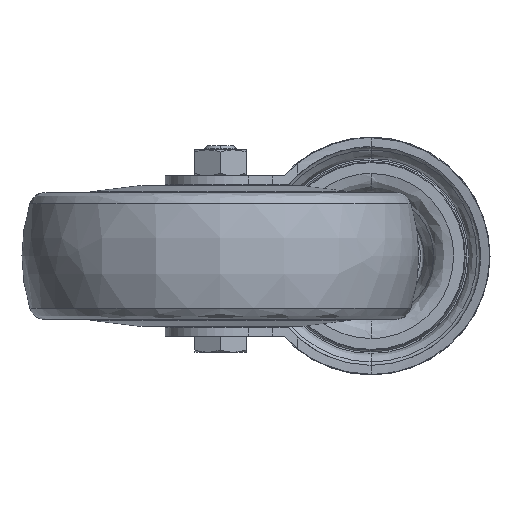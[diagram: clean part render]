
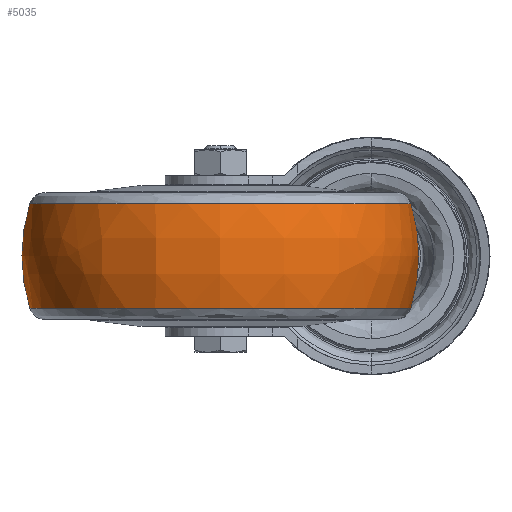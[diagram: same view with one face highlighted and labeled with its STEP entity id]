
A CAD part, front view. The second image highlights one B-rep face of the part: STEP entity #5035.
In plain terms, the highlighted free-form (B-spline) face has degree [3, 3] with [4, 4] control points.
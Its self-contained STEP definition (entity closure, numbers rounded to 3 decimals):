
#410 = CARTESIAN_POINT ( 'NONE',  ( -86.029, -85., -13.171 ) ) ;
#816 = CARTESIAN_POINT ( 'NONE',  ( 10.029, -181.059, -13.171 ) ) ;
#992 = CIRCLE ( 'NONE', #2624, 45. ) ;
#1196 = CARTESIAN_POINT ( 'NONE',  ( 12.677, -186.353, -4.522 ) ) ;
#1313 = EDGE_LOOP ( 'NONE', ( #10045, #7798, #5118, #4561 ) ) ;
#1622 = EDGE_CURVE ( 'NONE', #9898, #5864, #2046, .T. ) ;
#1708 = DIRECTION ( 'NONE',  ( 0., -1., 0. ) ) ;
#1752 = DIRECTION ( 'NONE',  ( 1., 0., 0. ) ) ;
#1961 = CARTESIAN_POINT ( 'NONE',  ( -86.029, -181.059, 13.171 ) ) ;
#2046 = CIRCLE ( 'NONE', #7321, 45. ) ;
#2624 = AXIS2_PLACEMENT_3D ( 'NONE', #4116, #1708, #9551 ) ;
#2710 = CARTESIAN_POINT ( 'NONE',  ( -33., -85., 0. ) ) ;
#2732 = CARTESIAN_POINT ( 'NONE',  ( 12.677, -85., 4.522 ) ) ;
#3019 = CARTESIAN_POINT ( 'NONE',  ( 12.677, -85., -4.522 ) ) ;
#3135 = AXIS2_PLACEMENT_3D ( 'NONE', #3838, #6375, #8598 ) ;
#3329 = CARTESIAN_POINT ( 'NONE',  ( 10.029, -85., 13.171 ) ) ;
#3384 = DIRECTION ( 'NONE',  ( 0., 0., 1. ) ) ;
#3518 = EDGE_CURVE ( 'NONE', #6753, #9271, #992, .T. ) ;
#3838 = CARTESIAN_POINT ( 'NONE',  ( -38., -85., 13.171 ) ) ;
#3902 = CARTESIAN_POINT ( 'NONE',  ( -86.029, -181.059, -13.171 ) ) ;
#4116 = CARTESIAN_POINT ( 'NONE',  ( -43., -85., 0. ) ) ;
#4134 = EDGE_CURVE ( 'NONE', #9898, #6753, #4273, .T. ) ;
#4223 = CIRCLE ( 'NONE', #6692, 48.029 ) ;
#4273 = CIRCLE ( 'NONE', #3135, 48.029 ) ;
#4327 = CARTESIAN_POINT ( 'NONE',  ( 12.677, -186.353, 4.522 ) ) ;
#4374 = CARTESIAN_POINT ( 'NONE',  ( -88.677, -85., -4.522 ) ) ;
#4561 = ORIENTED_EDGE ( 'NONE', *, *, #1622, .F. ) ;
#5035 = ADVANCED_FACE ( 'NONE', ( #7529 ), #7462, .T. ) ;
#5118 = ORIENTED_EDGE ( 'NONE', *, *, #9568, .T. ) ;
#5853 = DIRECTION ( 'NONE',  ( 0., 1., 0. ) ) ;
#5864 = VERTEX_POINT ( 'NONE', #7075 ) ;
#5878 = CARTESIAN_POINT ( 'NONE',  ( -88.677, -186.353, -4.522 ) ) ;
#5976 = CARTESIAN_POINT ( 'NONE',  ( -86.029, -85., 13.171 ) ) ;
#6375 = DIRECTION ( 'NONE',  ( 0., 0., -1. ) ) ;
#6384 = CARTESIAN_POINT ( 'NONE',  ( 10.029, -85., -13.171 ) ) ;
#6692 = AXIS2_PLACEMENT_3D ( 'NONE', #8824, #3384, #1752 ) ;
#6753 = VERTEX_POINT ( 'NONE', #9919 ) ;
#7075 = CARTESIAN_POINT ( 'NONE',  ( 10.029, -85., -13.171 ) ) ;
#7321 = AXIS2_PLACEMENT_3D ( 'NONE', #2710, #5853, #8331 ) ;
#7462 =( BOUNDED_SURFACE ( )  B_SPLINE_SURFACE ( 3, 3, ( 
 ( #5976, #1961, #9088, #8988 ),
 ( #8211, #8260, #4327, #2732 ),
 ( #4374, #5878, #1196, #3019 ),
 ( #9381, #3902, #816, #6384 ) ),
 .UNSPECIFIED., .F., .F., .F. ) 
 B_SPLINE_SURFACE_WITH_KNOTS ( ( 4, 4 ),
 ( 4, 4 ),
 ( 0., 1. ),
 ( 0., 1. ),
 .UNSPECIFIED. ) 
 GEOMETRIC_REPRESENTATION_ITEM ( )  RATIONAL_B_SPLINE_SURFACE ( (
 ( 1., 0.333, 0.333, 1.),
 ( 0.971, 0.324, 0.324, 0.971),
 ( 0.971, 0.324, 0.324, 0.971),
 ( 1., 0.333, 0.333, 1.) ) ) 
 REPRESENTATION_ITEM ( '' )  SURFACE ( )  );
#7529 = FACE_OUTER_BOUND ( 'NONE', #1313, .T. ) ;
#7798 = ORIENTED_EDGE ( 'NONE', *, *, #3518, .T. ) ;
#8211 = CARTESIAN_POINT ( 'NONE',  ( -88.677, -85., 4.522 ) ) ;
#8260 = CARTESIAN_POINT ( 'NONE',  ( -88.677, -186.353, 4.522 ) ) ;
#8331 = DIRECTION ( 'NONE',  ( 1., 0., 0. ) ) ;
#8598 = DIRECTION ( 'NONE',  ( 1., 0., 0. ) ) ;
#8824 = CARTESIAN_POINT ( 'NONE',  ( -38., -85., -13.171 ) ) ;
#8988 = CARTESIAN_POINT ( 'NONE',  ( 10.029, -85., 13.171 ) ) ;
#9088 = CARTESIAN_POINT ( 'NONE',  ( 10.029, -181.059, 13.171 ) ) ;
#9271 = VERTEX_POINT ( 'NONE', #410 ) ;
#9381 = CARTESIAN_POINT ( 'NONE',  ( -86.029, -85., -13.171 ) ) ;
#9551 = DIRECTION ( 'NONE',  ( -1., 0., 0. ) ) ;
#9568 = EDGE_CURVE ( 'NONE', #9271, #5864, #4223, .T. ) ;
#9898 = VERTEX_POINT ( 'NONE', #3329 ) ;
#9919 = CARTESIAN_POINT ( 'NONE',  ( -86.029, -85., 13.171 ) ) ;
#10045 = ORIENTED_EDGE ( 'NONE', *, *, #4134, .T. ) ;
